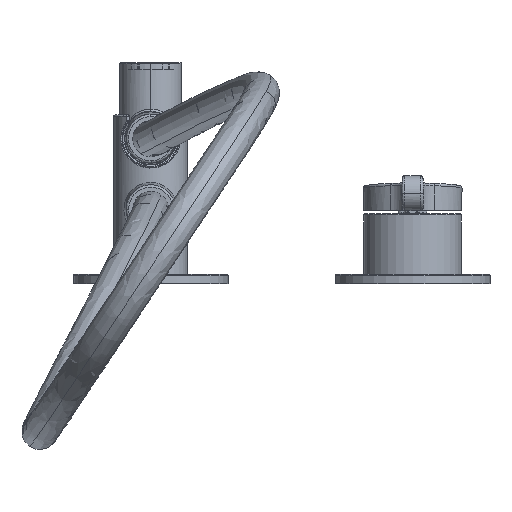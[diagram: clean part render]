
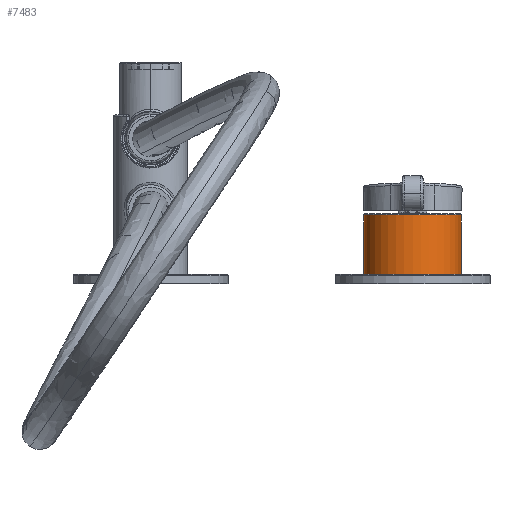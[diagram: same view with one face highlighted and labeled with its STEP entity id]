
A CAD part, front view. The second image highlights one B-rep face of the part: STEP entity #7483.
In plain terms, the highlighted cylindrical face has radius 20.5 mm (diameter 41 mm), a partial arc.
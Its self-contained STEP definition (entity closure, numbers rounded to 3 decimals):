
#1576=CARTESIAN_POINT('',(55.,0.,22.7));
#1577=DIRECTION('',(0.,0.,-1.));
#1578=DIRECTION('',(1.,0.,0.));
#1579=AXIS2_PLACEMENT_3D('',#1576,#1577,#1578);
#1581=CARTESIAN_POINT('',(55.,0.,47.7));
#1582=DIRECTION('',(0.,0.,1.));
#1583=DIRECTION('',(-1.,0.,0.));
#1584=AXIS2_PLACEMENT_3D('',#1581,#1582,#1583);
#1639=DIRECTION('',(0.,0.,1.));
#1640=VECTOR('',#1639,25.);
#1641=CARTESIAN_POINT('',(75.5,0.,22.7));
#1642=LINE('',#1641,#1640);
#1648=DIRECTION('',(0.,0.,-1.));
#1649=VECTOR('',#1648,25.);
#1650=CARTESIAN_POINT('',(34.5,0.,47.7));
#1651=LINE('',#1650,#1649);
#1656=CARTESIAN_POINT('',(75.5,0.,47.7));
#1657=CARTESIAN_POINT('',(34.5,0.,47.7));
#1658=VERTEX_POINT('',#1656);
#1659=VERTEX_POINT('',#1657);
#1772=CARTESIAN_POINT('',(34.5,0.,22.7));
#1773=CARTESIAN_POINT('',(75.5,0.,22.7));
#1774=VERTEX_POINT('',#1772);
#1775=VERTEX_POINT('',#1773);
#7469=CARTESIAN_POINT('',(55.,0.,38.85));
#7470=DIRECTION('',(0.,0.,-1.));
#7471=DIRECTION('',(1.,0.,0.));
#7472=AXIS2_PLACEMENT_3D('',#7469,#7470,#7471);
#7473=CYLINDRICAL_SURFACE('',#7472,20.5);
#7475=ORIENTED_EDGE('',*,*,#7474,.T.);
#7477=ORIENTED_EDGE('',*,*,#7476,.F.);
#7478=ORIENTED_EDGE('',*,*,#7456,.T.);
#7480=ORIENTED_EDGE('',*,*,#7479,.F.);
#7481=EDGE_LOOP('',(#7475,#7477,#7478,#7480));
#7482=FACE_OUTER_BOUND('',#7481,.F.);
#1580=CIRCLE('',#1579,20.5);
#1585=CIRCLE('',#1584,20.5);
#7456=EDGE_CURVE('',#1659,#1658,#1585,.T.);
#7474=EDGE_CURVE('',#1775,#1774,#1580,.T.);
#7476=EDGE_CURVE('',#1659,#1774,#1651,.T.);
#7479=EDGE_CURVE('',#1775,#1658,#1642,.T.);
#7483=ADVANCED_FACE('',(#7482),#7473,.T.);
